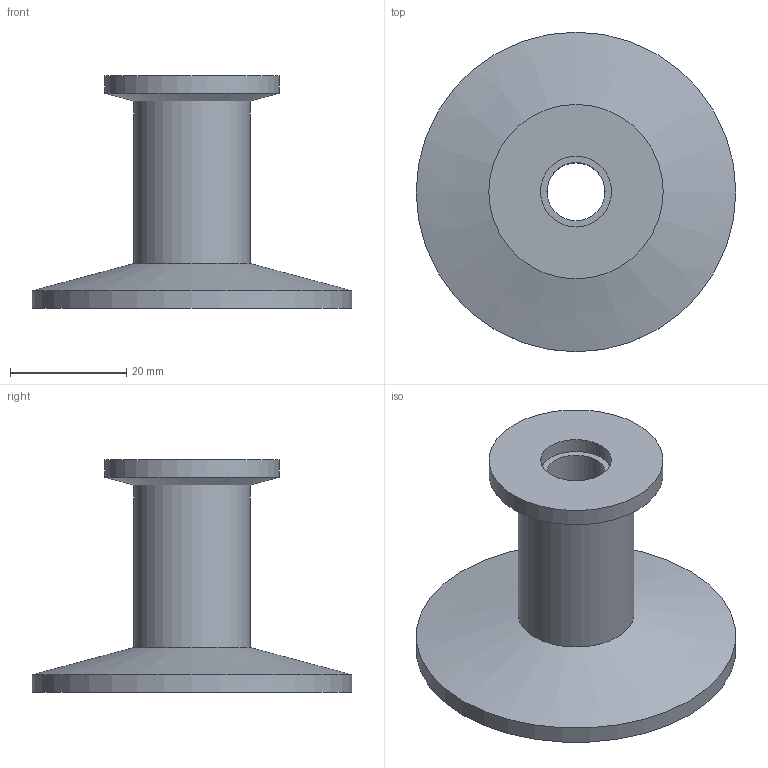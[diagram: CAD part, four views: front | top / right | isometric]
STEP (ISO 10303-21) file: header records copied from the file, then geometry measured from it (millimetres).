
FILE_DESCRIPTION( ( 'Unknown' ), '1' );
FILE_NAME( 'X:/Daten ( aktueller Bestand )/Projekte und Zeichnungen/Solid Edge/1 Kleinflanschverzweigungen/Alu/Sonderlänge 40mm/1063-4.stp', 'Unknown', ( 'Unknown' ), ( 'Unknown' ), 'XStep 1.0', 'Unknown', ' ' );
FILE_SCHEMA( ( 'automotive_design' ) );
Length unit declared in the file: millimetre
Products named in the file (1): 1
Bounding box: 55 x 55 x 40 mm (x, y, z)
Volume: 19659.5 mm3; surface area: 9871.6 mm2
Topology: 1 solids, 1 shells, 14 faces, 23 edges, 14 vertices
Faces by surface type: cylinder 7, plane 5, cone 2
Full cylindrical faces by diameter (mm): 10 x1, 12.2 x1, 20 x1, 30 x1, 31.7 x1, 41.2 x1, 55 x1
Entity records: 416 total; most frequent: DIRECTION 58, CARTESIAN_POINT 43, AXIS2_PLACEMENT_3D 29, EDGE_LOOP 28, ORIENTED_EDGE 28, FACE_OUTER_BOUND 21, STYLED_ITEM 14, PRESENTATION_STYLE_ASSIGNMENT 14
